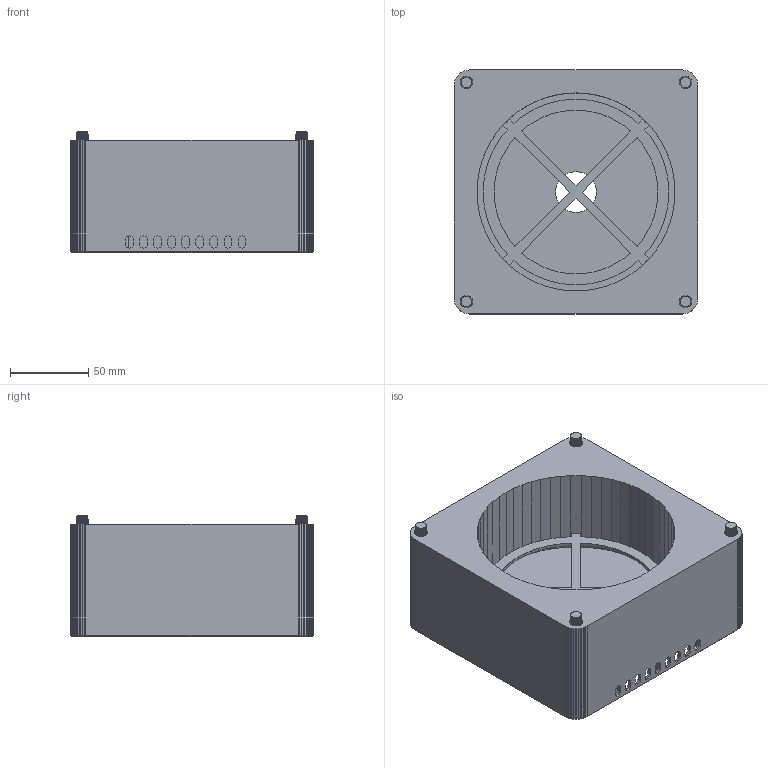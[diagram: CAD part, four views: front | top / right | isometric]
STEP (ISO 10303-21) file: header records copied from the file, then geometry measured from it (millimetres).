
FILE_DESCRIPTION(('Open CASCADE Model'),'2;1');
FILE_NAME('Open CASCADE Shape Model','2026-08-07T13:51:14',('Author'),( 'Open CASCADE'),'Open CASCADE STEP processor 7.9','Open CASCADE 7.9' ,'Unknown');
FILE_SCHEMA(('AUTOMOTIVE_DESIGN { 1 0 10303 214 1 1 1 1 }'));
Products named in the file (1): 燃燒艙
Bounding box: 156 x 156 x 78 mm (x, y, z)
Volume: 763393.1 mm3; surface area: 153652.9 mm2
Topology: 1 solids, 1 shells, 1349 faces, 3371 edges, 2028 vertices
Faces by surface type: plane 1349
Entity records: 82406 total; most frequent: CARTESIAN_POINT 13491, DIRECTION 12813, LINE 10113, VECTOR 10113, ORIENTED_EDGE 6742, PCURVE 6742, DEFINITIONAL_REPRESENTATION 6742, EDGE_CURVE 3371
